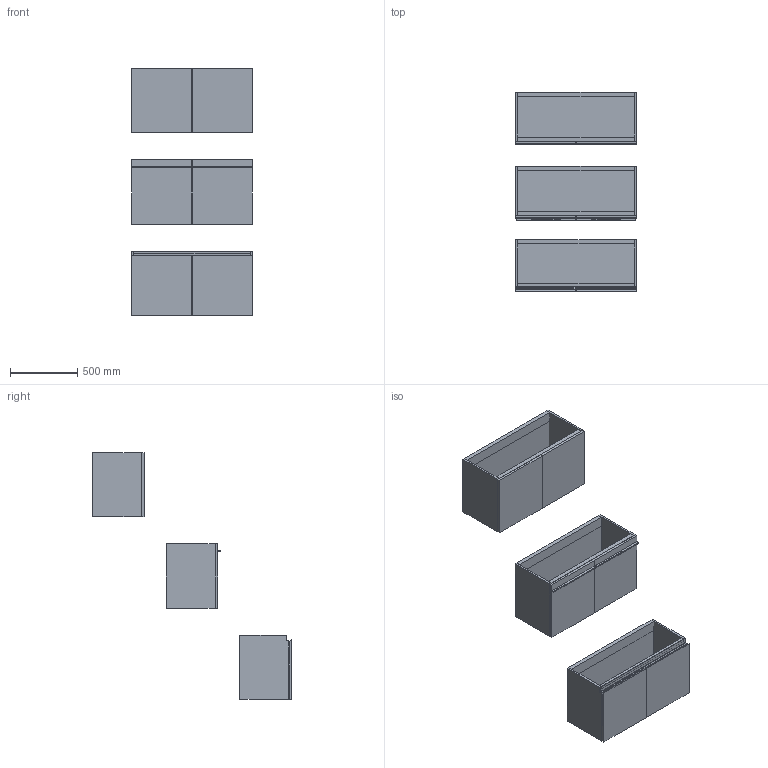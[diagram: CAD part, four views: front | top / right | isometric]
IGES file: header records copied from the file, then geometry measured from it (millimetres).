
Start section: Data from Parasolid IGES Translator 19.0.9, Copyright(c) 2006 Siemens PL M Software. All Rights Reserved.
Global section: file name: noorth-SI-H 48 D 38,8 W 90_8399.igs; native system: By Siemens PLM Incorporated; preprocessor: XPlus GENERIC/IGES 19.0.9; author: Noname; organization: Noname; date: 20200601.102107; units: metre
Bounding box: 900.1 x 1485.1 x 1840.01 mm (x, y, z)
Volume: 66867434.3 mm3; surface area: 10327669.1 mm2
Topology: 27 solids, 27 shells, 264 faces, 566 edges, 336 vertices
Faces by surface type: plane 180, extrusion 32, bspline 32, cylinder 20
